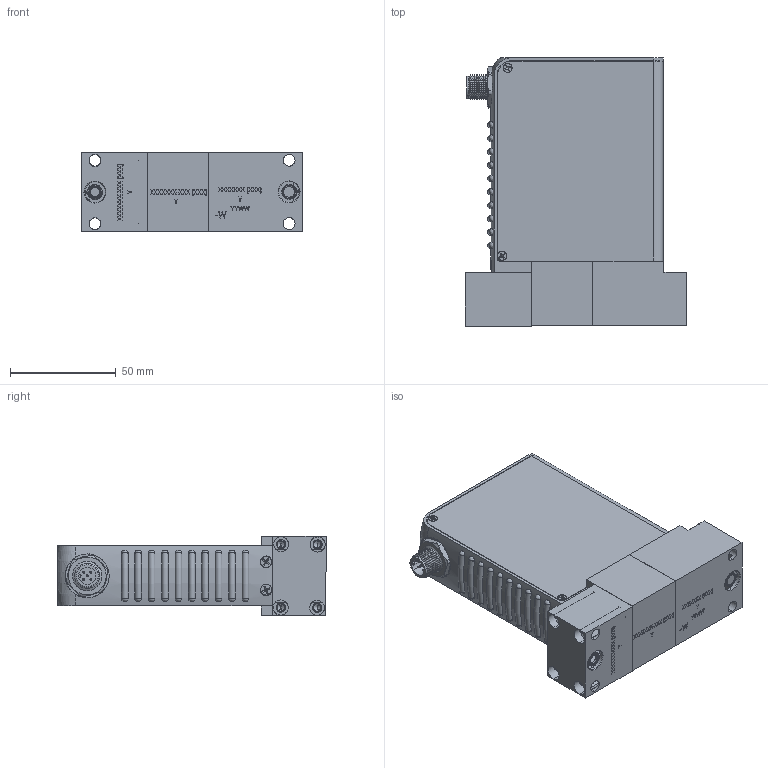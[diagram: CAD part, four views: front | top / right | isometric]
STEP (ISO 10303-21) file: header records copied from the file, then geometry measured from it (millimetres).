
FILE_DESCRIPTION (( 'STEP AP203' ), '1' );
FILE_NAME ('GF100-GF120-GF125-BX-DX.STEP', '2023-02-15T18:40:46', ( '' ), ( '' ), 'SwSTEP 2.0', 'SolidWorks 2020', '' );
FILE_SCHEMA (( 'CONFIG_CONTROL_DESIGN' ));
Products named in the file (1): GF100-GF120-GF125-BX-DX
Bounding box: 104.95 x 127.22 x 37.76 mm (x, y, z)
Volume: 77768.9 mm3; surface area: 88328.8 mm2
Topology: 32 solids, 32 shells, 2959 faces, 7939 edges, 5177 vertices
Faces by surface type: plane 1773, cylinder 545, bspline 350, cone 221, torus 66, sphere 4
Entity records: 119985 total; most frequent: CARTESIAN_POINT 48409, ORIENTED_EDGE 15794, DIRECTION 13184, EDGE_CURVE 7897, VECTOR 5394, LINE 5394, VERTEX_POINT 5173, AXIS2_PLACEMENT_3D 3895
